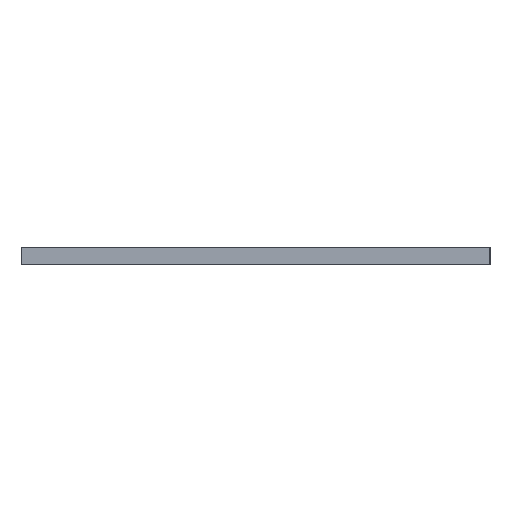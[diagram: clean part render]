
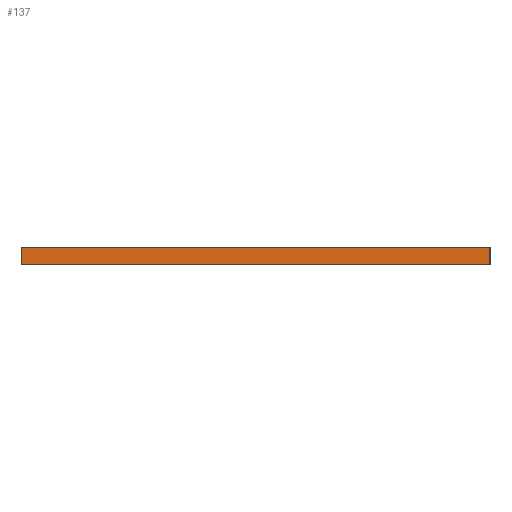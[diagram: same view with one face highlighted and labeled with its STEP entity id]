
A CAD part, left-side view. The second image highlights one B-rep face of the part: STEP entity #137.
In plain terms, the highlighted planar face has unit normal (-1, 0, 0).
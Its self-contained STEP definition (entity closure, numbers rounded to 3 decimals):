
#21 = EDGE_CURVE('',#22,#24,#26,.T.);
#22 = VERTEX_POINT('',#23);
#23 = CARTESIAN_POINT('',(-22.,21.,-37.));
#24 = VERTEX_POINT('',#25);
#25 = CARTESIAN_POINT('',(-22.,21.,-35.4));
#26 = SURFACE_CURVE('',#27,(#31,#43),.PCURVE_S1.);
#27 = LINE('',#28,#29);
#28 = CARTESIAN_POINT('',(-22.,21.,-37.));
#29 = VECTOR('',#30,1.);
#30 = DIRECTION('',(0.,0.,1.));
#31 = PCURVE('',#32,#37);
#32 = PLANE('',#33);
#33 = AXIS2_PLACEMENT_3D('',#34,#35,#36);
#34 = CARTESIAN_POINT('',(-22.,21.,-37.));
#35 = DIRECTION('',(0.,1.,0.));
#36 = DIRECTION('',(1.,0.,0.));
#37 = DEFINITIONAL_REPRESENTATION('',(#38),#42);
#38 = LINE('',#39,#40);
#39 = CARTESIAN_POINT('',(0.,0.));
#40 = VECTOR('',#41,1.);
#41 = DIRECTION('',(0.,-1.));
#42 = ( GEOMETRIC_REPRESENTATION_CONTEXT(2) 
PARAMETRIC_REPRESENTATION_CONTEXT() REPRESENTATION_CONTEXT('2D SPACE',''
  ) );
#43 = PCURVE('',#44,#49);
#44 = PLANE('',#45);
#45 = AXIS2_PLACEMENT_3D('',#46,#47,#48);
#46 = CARTESIAN_POINT('',(-22.,-21.,-37.));
#47 = DIRECTION('',(-1.,0.,0.));
#48 = DIRECTION('',(0.,1.,0.));
#49 = DEFINITIONAL_REPRESENTATION('',(#50),#54);
#50 = LINE('',#51,#52);
#51 = CARTESIAN_POINT('',(42.,0.));
#52 = VECTOR('',#53,1.);
#53 = DIRECTION('',(0.,-1.));
#54 = ( GEOMETRIC_REPRESENTATION_CONTEXT(2) 
PARAMETRIC_REPRESENTATION_CONTEXT() REPRESENTATION_CONTEXT('2D SPACE',''
  ) );
#72 = PLANE('',#73);
#73 = AXIS2_PLACEMENT_3D('',#74,#75,#76);
#74 = CARTESIAN_POINT('',(8.,0.,-35.4));
#75 = DIRECTION('',(0.,0.,-1.));
#76 = DIRECTION('',(1.,0.,0.));
#126 = PLANE('',#127);
#127 = AXIS2_PLACEMENT_3D('',#128,#129,#130);
#128 = CARTESIAN_POINT('',(8.,0.,-37.));
#129 = DIRECTION('',(0.,0.,-1.));
#130 = DIRECTION('',(1.,0.,0.));
#137 = ADVANCED_FACE('',(#138),#44,.T.);
#138 = FACE_BOUND('',#139,.T.);
#139 = EDGE_LOOP('',(#140,#170,#191,#192));
#140 = ORIENTED_EDGE('',*,*,#141,.T.);
#141 = EDGE_CURVE('',#142,#144,#146,.T.);
#142 = VERTEX_POINT('',#143);
#143 = CARTESIAN_POINT('',(-22.,-21.,-37.));
#144 = VERTEX_POINT('',#145);
#145 = CARTESIAN_POINT('',(-22.,-21.,-35.4));
#146 = SURFACE_CURVE('',#147,(#151,#158),.PCURVE_S1.);
#147 = LINE('',#148,#149);
#148 = CARTESIAN_POINT('',(-22.,-21.,-37.));
#149 = VECTOR('',#150,1.);
#150 = DIRECTION('',(0.,0.,1.));
#151 = PCURVE('',#44,#152);
#152 = DEFINITIONAL_REPRESENTATION('',(#153),#157);
#153 = LINE('',#154,#155);
#154 = CARTESIAN_POINT('',(0.,0.));
#155 = VECTOR('',#156,1.);
#156 = DIRECTION('',(0.,-1.));
#157 = ( GEOMETRIC_REPRESENTATION_CONTEXT(2) 
PARAMETRIC_REPRESENTATION_CONTEXT() REPRESENTATION_CONTEXT('2D SPACE',''
  ) );
#158 = PCURVE('',#159,#164);
#159 = PLANE('',#160);
#160 = AXIS2_PLACEMENT_3D('',#161,#162,#163);
#161 = CARTESIAN_POINT('',(38.,-21.,-37.));
#162 = DIRECTION('',(0.,-1.,0.));
#163 = DIRECTION('',(-1.,0.,0.));
#164 = DEFINITIONAL_REPRESENTATION('',(#165),#169);
#165 = LINE('',#166,#167);
#166 = CARTESIAN_POINT('',(60.,0.));
#167 = VECTOR('',#168,1.);
#168 = DIRECTION('',(0.,-1.));
#169 = ( GEOMETRIC_REPRESENTATION_CONTEXT(2) 
PARAMETRIC_REPRESENTATION_CONTEXT() REPRESENTATION_CONTEXT('2D SPACE',''
  ) );
#170 = ORIENTED_EDGE('',*,*,#171,.T.);
#171 = EDGE_CURVE('',#144,#24,#172,.T.);
#172 = SURFACE_CURVE('',#173,(#177,#184),.PCURVE_S1.);
#173 = LINE('',#174,#175);
#174 = CARTESIAN_POINT('',(-22.,-21.,-35.4));
#175 = VECTOR('',#176,1.);
#176 = DIRECTION('',(0.,1.,0.));
#177 = PCURVE('',#44,#178);
#178 = DEFINITIONAL_REPRESENTATION('',(#179),#183);
#179 = LINE('',#180,#181);
#180 = CARTESIAN_POINT('',(0.,-1.6));
#181 = VECTOR('',#182,1.);
#182 = DIRECTION('',(1.,0.));
#183 = ( GEOMETRIC_REPRESENTATION_CONTEXT(2) 
PARAMETRIC_REPRESENTATION_CONTEXT() REPRESENTATION_CONTEXT('2D SPACE',''
  ) );
#184 = PCURVE('',#72,#185);
#185 = DEFINITIONAL_REPRESENTATION('',(#186),#190);
#186 = LINE('',#187,#188);
#187 = CARTESIAN_POINT('',(-30.,21.));
#188 = VECTOR('',#189,1.);
#189 = DIRECTION('',(0.,-1.));
#190 = ( GEOMETRIC_REPRESENTATION_CONTEXT(2) 
PARAMETRIC_REPRESENTATION_CONTEXT() REPRESENTATION_CONTEXT('2D SPACE',''
  ) );
#191 = ORIENTED_EDGE('',*,*,#21,.F.);
#192 = ORIENTED_EDGE('',*,*,#193,.F.);
#193 = EDGE_CURVE('',#142,#22,#194,.T.);
#194 = SURFACE_CURVE('',#195,(#199,#206),.PCURVE_S1.);
#195 = LINE('',#196,#197);
#196 = CARTESIAN_POINT('',(-22.,-21.,-37.));
#197 = VECTOR('',#198,1.);
#198 = DIRECTION('',(0.,1.,0.));
#199 = PCURVE('',#44,#200);
#200 = DEFINITIONAL_REPRESENTATION('',(#201),#205);
#201 = LINE('',#202,#203);
#202 = CARTESIAN_POINT('',(0.,0.));
#203 = VECTOR('',#204,1.);
#204 = DIRECTION('',(1.,0.));
#205 = ( GEOMETRIC_REPRESENTATION_CONTEXT(2) 
PARAMETRIC_REPRESENTATION_CONTEXT() REPRESENTATION_CONTEXT('2D SPACE',''
  ) );
#206 = PCURVE('',#126,#207);
#207 = DEFINITIONAL_REPRESENTATION('',(#208),#212);
#208 = LINE('',#209,#210);
#209 = CARTESIAN_POINT('',(-30.,21.));
#210 = VECTOR('',#211,1.);
#211 = DIRECTION('',(0.,-1.));
#212 = ( GEOMETRIC_REPRESENTATION_CONTEXT(2) 
PARAMETRIC_REPRESENTATION_CONTEXT() REPRESENTATION_CONTEXT('2D SPACE',''
  ) );
